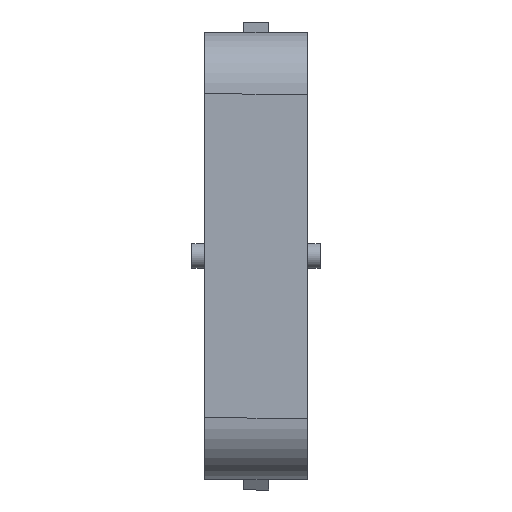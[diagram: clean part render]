
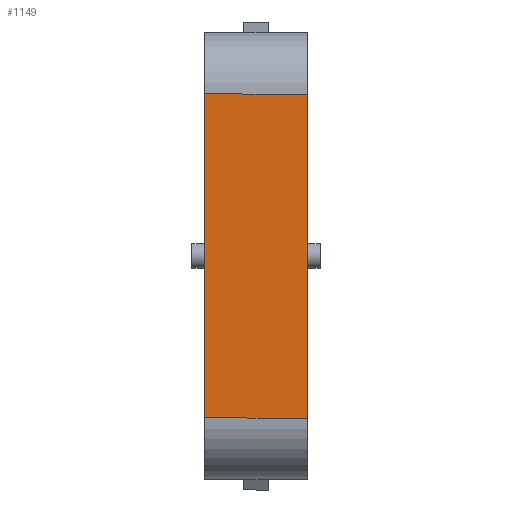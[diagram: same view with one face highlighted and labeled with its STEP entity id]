
A CAD part, front view. The second image highlights one B-rep face of the part: STEP entity #1149.
In plain terms, the highlighted planar face has unit normal (0, -1, 0).
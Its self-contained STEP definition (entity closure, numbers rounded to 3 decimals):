
#22 = CARTESIAN_POINT ( 'NONE',  ( 0., -187.95, 31.5 ) ) ;
#112 = VECTOR ( 'NONE', #481, 1000. ) ;
#118 = EDGE_CURVE ( 'NONE', #627, #702, #1030, .T. ) ;
#210 = EDGE_CURVE ( 'NONE', #1288, #702, #221, .T. ) ;
#221 = LINE ( 'NONE', #690, #566 ) ;
#258 = ORIENTED_EDGE ( 'NONE', *, *, #499, .T. ) ;
#270 = FACE_OUTER_BOUND ( 'NONE', #949, .T. ) ;
#280 = ORIENTED_EDGE ( 'NONE', *, *, #615, .F. ) ;
#286 = CARTESIAN_POINT ( 'NONE',  ( 0., -187.95, 31.5 ) ) ;
#417 = ORIENTED_EDGE ( 'NONE', *, *, #118, .F. ) ;
#461 = DIRECTION ( 'NONE',  ( 0., 0., 1. ) ) ;
#481 = DIRECTION ( 'NONE',  ( -1., 0., 0. ) ) ;
#499 = EDGE_CURVE ( 'NONE', #786, #1288, #1164, .T. ) ;
#501 = CARTESIAN_POINT ( 'NONE',  ( 0., -187.95, 31.5 ) ) ;
#515 = CARTESIAN_POINT ( 'NONE',  ( -20., -187.95, 31.5 ) ) ;
#556 = DIRECTION ( 'NONE',  ( 0., 0., -1. ) ) ;
#566 = VECTOR ( 'NONE', #556, 1000. ) ;
#587 = ORIENTED_EDGE ( 'NONE', *, *, #210, .T. ) ;
#615 = EDGE_CURVE ( 'NONE', #786, #627, #1185, .T. ) ;
#627 = VERTEX_POINT ( 'NONE', #1451 ) ;
#690 = CARTESIAN_POINT ( 'NONE',  ( -20., -187.95, 31.5 ) ) ;
#702 = VERTEX_POINT ( 'NONE', #703 ) ;
#703 = CARTESIAN_POINT ( 'NONE',  ( -20., -187.95, -31.5 ) ) ;
#735 = VECTOR ( 'NONE', #1101, 1000. ) ;
#786 = VERTEX_POINT ( 'NONE', #989 ) ;
#928 = DIRECTION ( 'NONE',  ( 0., 1., 0. ) ) ;
#949 = EDGE_LOOP ( 'NONE', ( #587, #417, #280, #258 ) ) ;
#989 = CARTESIAN_POINT ( 'NONE',  ( 0., -187.95, 31.5 ) ) ;
#1016 = AXIS2_PLACEMENT_3D ( 'NONE', #501, #928, #461 ) ;
#1030 = LINE ( 'NONE', #1336, #112 ) ;
#1040 = PLANE ( 'NONE',  #1016 ) ;
#1101 = DIRECTION ( 'NONE',  ( -1., 0., 0. ) ) ;
#1149 = ADVANCED_FACE ( 'NONE', ( #270 ), #1040, .F. ) ;
#1164 = LINE ( 'NONE', #286, #735 ) ;
#1185 = LINE ( 'NONE', #22, #1220 ) ;
#1220 = VECTOR ( 'NONE', #1400, 1000. ) ;
#1288 = VERTEX_POINT ( 'NONE', #515 ) ;
#1336 = CARTESIAN_POINT ( 'NONE',  ( 0., -187.95, -31.5 ) ) ;
#1400 = DIRECTION ( 'NONE',  ( 0., 0., -1. ) ) ;
#1451 = CARTESIAN_POINT ( 'NONE',  ( 0., -187.95, -31.5 ) ) ;
